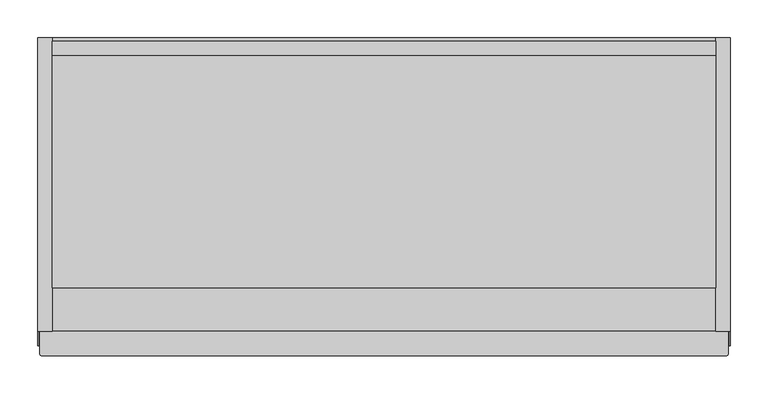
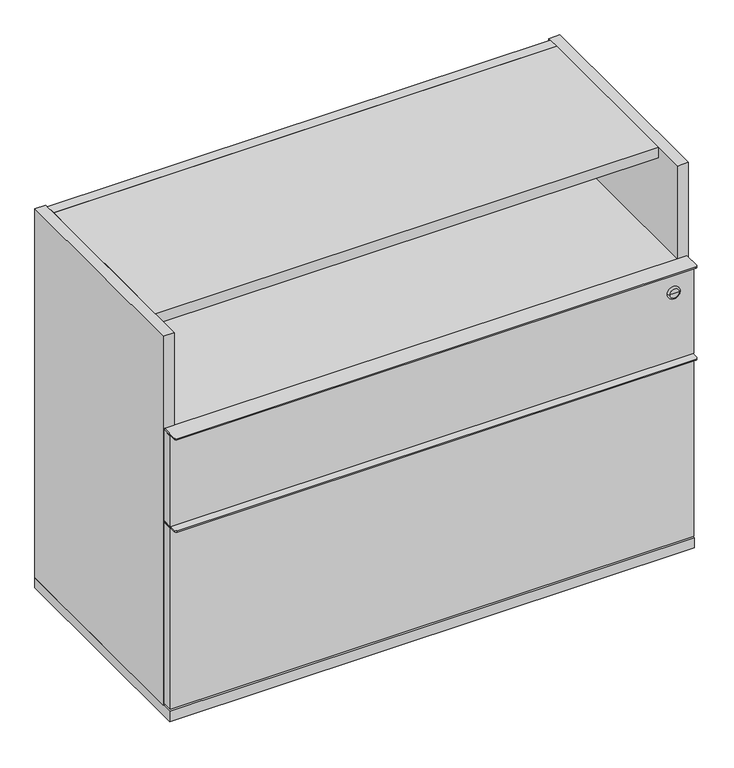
"""IFC4 building model written with IfcOpenShell, lengths in millimetres: furniture geometry, Haworth_BeHold_Modular_AttachedLateral : O/B/F - Inset Back - 36w."""

from ifc_helpers import new_model, si_unit, point, frame, frame_2d, origin, origin_with_axes, place, context, project, spatial, polyline, circle_curve, ellipse_curve, trimmed, segment, composite_curve, outline, extrude, source, transform, mapped, element, save
from ifc_brep_helpers import plane_surface, revolved_surface, advanced_brep


def furniture_4d16a0e5(model_context):
    return source(origin(), model_context, "Body", "SolidModel", [
        extrude(outline(composite_curve([segment(polyline([(-611.6779053, -505.6071814), (-611.6779053, -476.25), (297.9595947, -476.25), (297.9595947, -505.6152625)]), True, "CONTINUOUS"), segment(trimmed(circle_curve(frame_2d((294.7811072, -505.6152625)), 3.1784875), [point((297.9595947, -505.6152625))], [point((294.7811072, -508.79375))], False, "CARTESIAN"), True, "CONTINUOUS"), segment(polyline([(294.7811072, -508.79375), (-608.4913367, -508.79375)]), True, "CONTINUOUS"), segment(trimmed(circle_curve(frame_2d((-608.4913367, -505.6071814)), 3.1865686), [point((-608.4913367, -508.79375))], [point((-611.6779053, -505.6071814))], False, "CARTESIAN"), True, "CONTINUOUS")], self_intersect=False)), frame((0.0, 0.0, 538.1625), z_axis=(0.0, 0.0, 1.0), x_axis=(1.0, 0.0, 0.0)), (0.0, 0.0, 1.0), 2.38125),
        advanced_brep(
        [(255.8892944, -498.4742249, 496.09375), (271.767395, -498.4742249, 496.09375), (263.8283447, -498.4742249, 496.09375), (252.7150695, -495.3, 496.09375), (274.9416198, -495.3, 496.09375), (263.8283447, -495.3, 496.09375)],
        [
            (0, 1, circle_curve(frame((263.8283447, -498.4742249, 496.09375), z_axis=(0.0, -1.0, 0.0), x_axis=(1.0, 0.0, 0.0)), 7.9390503)),
            (1, 2),
            (2, 0),
            (1, 0, circle_curve(frame((263.8283447, -498.4742249, 496.09375), z_axis=(0.0, -1.0, 0.0), x_axis=(1.0, 0.0, 0.0)), 7.9390503)),
            (3, 4, circle_curve(frame((263.8283447, -495.3, 496.09375), z_axis=(0.0, -1.0, 0.0), x_axis=(1.0, 0.0, 0.0)), 11.1132751)),
            (4, 1, circle_curve(frame((271.767395, -495.3, 496.09375), z_axis=(0.0, 0.0, -1.0), x_axis=(-1.0, 0.0, 0.0)), 3.1742249)),
            (0, 3, circle_curve(frame((255.8892944, -495.3, 496.09375), z_axis=(0.0, 0.0, -1.0), x_axis=(1.0, 0.0, 0.0)), 3.1742249)),
            (4, 3, circle_curve(frame((263.8283447, -495.3, 496.09375), z_axis=(0.0, -1.0, 0.0), x_axis=(1.0, 0.0, 0.0)), 11.1132751)),
            (5, 4),
            (3, 5),
        ],
        [
            plane_surface(frame((263.8283447, -498.4742249, 496.09375), z_axis=(0.0, -1.0, 0.0), x_axis=(1.0, 0.0, 0.0))),
            revolved_surface(trimmed(ellipse_curve(frame((271.767395, -495.3, 496.09375), z_axis=(0.0, 0.0, 1.0), x_axis=(-1.0, 0.0, 0.0)), 3.1742249, 3.1742249), [point((271.767395, -498.4742249, 496.09375))], [point((274.9416198, -495.3, 496.09375))], True, "CARTESIAN"), (263.8283447, -481.3109205, 496.09375), (0.0, 1.0, 0.0)),
            plane_surface(frame((263.8283447, -495.3, 496.09375), z_axis=(0.0, 1.0, 0.0), x_axis=(1.0, 0.0, 0.0))),
        ],
        [
            (0, [[1, 2, 3]]),
            (0, [[4, -3, -2]]),
            (1, [[5, 6, -1, 7]]),
            (1, [[8, -7, -4, -6]]),
            (2, [[9, -5, 10]]),
            (2, [[-10, -8, -9]]),
        ],
    ),
        extrude(outline(polyline([(-612.4716553, -476.25), (298.7533447, -476.25), (298.7533447, -495.3), (-612.4716553, -495.3), (-612.4716553, -476.25)])), frame((0.0, 0.0, 371.475), z_axis=(0.0, 0.0, 1.0), x_axis=(1.0, 0.0, 0.0)), (0.0, 0.0, 1.0), 166.6875),
        extrude(outline(composite_curve([segment(polyline([(-611.6779053, -505.6071814), (-611.6779053, -476.25), (297.9595947, -476.25), (297.9595947, -505.6152625)]), True, "CONTINUOUS"), segment(trimmed(circle_curve(frame_2d((294.7811072, -505.6152625)), 3.1784875), [point((297.9595947, -505.6152625))], [point((294.7811072, -508.79375))], False, "CARTESIAN"), True, "CONTINUOUS"), segment(polyline([(294.7811072, -508.79375), (-608.4913367, -508.79375)]), True, "CONTINUOUS"), segment(trimmed(circle_curve(frame_2d((-608.4913367, -505.6071814)), 3.1865686), [point((-608.4913367, -508.79375))], [point((-611.6779053, -505.6071814))], False, "CARTESIAN"), True, "CONTINUOUS")], self_intersect=False)), frame((0.0, 0.0, 368.3), z_axis=(0.0, 0.0, 1.0), x_axis=(1.0, 0.0, 0.0)), (0.0, 0.0, 1.0), 2.38125),
        extrude(outline(polyline([(-612.4716553, -476.25), (298.7533447, -476.25), (298.7533447, -495.3), (-612.4716553, -495.3), (-612.4716553, -476.25)])), frame((0.0, 0.0, 34.925), z_axis=(0.0, 0.0, 1.0), x_axis=(1.0, 0.0, 0.0)), (0.0, 0.0, 1.0), 333.375),
        extrude(outline(polyline([(281.2908447, -107.95), (281.2908447, -476.25), (-595.0091553, -476.25), (-595.0091553, -107.95), (281.2908447, -107.95)])), frame((0.0, 0.0, 520.7), z_axis=(0.0, 0.0, 1.0), x_axis=(1.0, 0.0, 0.0)), (0.0, 0.0, 1.0), 19.05),
        extrude(outline(polyline([(281.2908447, -112.7125), (281.2908447, -419.1), (-595.0091553, -419.1), (-595.0091553, -112.7125), (281.2908447, -112.7125)])), frame((0.0, 0.0, 692.15), z_axis=(0.0, 0.0, 1.0), x_axis=(1.0, 0.0, 0.0)), (0.0, 0.0, 1.0), 19.05),
        extrude(outline(polyline([(281.2908447, -112.7125), (-595.0091553, -112.7125), (-595.0091553, -93.6625), (281.2908447, -93.6625), (281.2908447, -112.7125)])), frame((0.0, 0.0, 31.75), z_axis=(0.0, 0.0, 1.0), x_axis=(1.0, 0.0, 0.0)), (0.0, 0.0, 1.0), 679.45),
        extrude(outline(polyline([(300.3408447, -88.9), (300.3408447, -476.25), (281.2908447, -476.25), (281.2908447, -88.9), (300.3408447, -88.9)])), frame((0.0, 0.0, 31.75), z_axis=(0.0, 0.0, 1.0), x_axis=(1.0, 0.0, 0.0)), (0.0, 0.0, 1.0), 679.45),
        extrude(outline(polyline([(-614.0591553, -476.25), (-614.0591553, -88.9), (-595.0091553, -88.9), (-595.0091553, -476.25), (-614.0591553, -476.25)])), frame((0.0, 0.0, 31.75), z_axis=(0.0, 0.0, 1.0), x_axis=(1.0, 0.0, 0.0)), (0.0, 0.0, 1.0), 679.45),
        extrude(outline(polyline([(300.3408447, -88.9), (300.3408447, -495.3), (-614.0591553, -495.3), (-614.0591553, -88.9), (300.3408447, -88.9)])), frame((0.0, 0.0, 12.7), z_axis=(0.0, 0.0, 1.0), x_axis=(1.0, 0.0, 0.0)), (0.0, 0.0, 1.0), 19.05),
        extrude(outline(composite_curve([segment(polyline([(281.2908447, -114.3), (281.2908447, -158.7999969)]), True, "CONTINUOUS"), segment(trimmed(circle_curve(frame_2d((274.9408447, -158.7999969)), 6.35), [point((281.2908447, -158.7999969))], [point((274.9408447, -165.1499969))], False, "CARTESIAN"), True, "CONTINUOUS"), segment(polyline([(274.9408447, -165.1499969), (263.4907684, -165.1499969), (224.0908477, -125.7500763), (224.0908477, -114.3)]), True, "CONTINUOUS"), segment(trimmed(circle_curve(frame_2d((230.4408477, -114.3)), 6.35), [point((224.0908477, -114.3))], [point((230.4408477, -107.95))], False, "CARTESIAN"), True, "CONTINUOUS"), segment(polyline([(230.4408477, -107.95), (274.9408447, -107.95)]), True, "CONTINUOUS"), segment(trimmed(circle_curve(frame_2d((274.9408447, -114.3)), 6.35), [point((274.9408447, -107.95))], [point((281.2908447, -114.3))], False, "CARTESIAN"), True, "CONTINUOUS")], self_intersect=False)), origin_with_axes(), (0.0, 0.0, 1.0), 12.7),
        extrude(outline(composite_curve([segment(trimmed(circle_curve(frame_2d((274.9408447, -469.9)), 6.35), [point((281.2908447, -469.9))], [point((274.9408447, -476.25))], False, "CARTESIAN"), True, "CONTINUOUS"), segment(polyline([(274.9408447, -476.25), (230.4408477, -476.25)]), True, "CONTINUOUS"), segment(trimmed(circle_curve(frame_2d((230.4408477, -469.9)), 6.35), [point((230.4408477, -476.25))], [point((224.0908477, -469.9))], False, "CARTESIAN"), True, "CONTINUOUS"), segment(polyline([(224.0908477, -469.9), (224.0908477, -458.4499237), (263.4907684, -419.0500031), (274.9408447, -419.0500031)]), True, "CONTINUOUS"), segment(trimmed(circle_curve(frame_2d((274.9408447, -425.4000031)), 6.35), [point((274.9408447, -419.0500031))], [point((281.2908447, -425.4000031))], False, "CARTESIAN"), True, "CONTINUOUS"), segment(polyline([(281.2908447, -425.4000031), (281.2908447, -469.9)]), True, "CONTINUOUS")], self_intersect=False)), origin_with_axes(), (0.0, 0.0, 1.0), 12.7),
        extrude(outline(composite_curve([segment(trimmed(circle_curve(frame_2d((-588.6591553, -114.3)), 6.35), [point((-595.0091553, -114.3))], [point((-588.6591553, -107.95))], False, "CARTESIAN"), True, "CONTINUOUS"), segment(polyline([(-588.6591553, -107.95), (-544.1591584, -107.95)]), True, "CONTINUOUS"), segment(trimmed(circle_curve(frame_2d((-544.1591584, -114.3)), 6.35), [point((-544.1591584, -107.95))], [point((-537.8091584, -114.3))], False, "CARTESIAN"), True, "CONTINUOUS"), segment(polyline([(-537.8091584, -114.3), (-537.8091584, -125.7500763), (-577.209079, -165.1499969), (-588.6591553, -165.1499969)]), True, "CONTINUOUS"), segment(trimmed(circle_curve(frame_2d((-588.6591553, -158.7999969)), 6.35), [point((-588.6591553, -165.1499969))], [point((-595.0091553, -158.7999969))], False, "CARTESIAN"), True, "CONTINUOUS"), segment(polyline([(-595.0091553, -158.7999969), (-595.0091553, -114.3)]), True, "CONTINUOUS")], self_intersect=False)), origin_with_axes(), (0.0, 0.0, 1.0), 12.7),
        extrude(outline(composite_curve([segment(polyline([(-595.0091553, -469.9), (-595.0091553, -425.4000031)]), True, "CONTINUOUS"), segment(trimmed(circle_curve(frame_2d((-588.6591553, -425.4000031)), 6.35), [point((-595.0091553, -425.4000031))], [point((-588.6591553, -419.0500031))], False, "CARTESIAN"), True, "CONTINUOUS"), segment(polyline([(-588.6591553, -419.0500031), (-577.209079, -419.0500031), (-537.8091584, -458.4499237), (-537.8091584, -469.9)]), True, "CONTINUOUS"), segment(trimmed(circle_curve(frame_2d((-544.1591584, -469.9)), 6.35), [point((-537.8091584, -469.9))], [point((-544.1591584, -476.25))], False, "CARTESIAN"), True, "CONTINUOUS"), segment(polyline([(-544.1591584, -476.25), (-588.6591553, -476.25)]), True, "CONTINUOUS"), segment(trimmed(circle_curve(frame_2d((-588.6591553, -469.9)), 6.35), [point((-588.6591553, -476.25))], [point((-595.0091553, -469.9))], False, "CARTESIAN"), True, "CONTINUOUS")], self_intersect=False)), origin_with_axes(), (0.0, 0.0, 1.0), 12.7),
    ])


if __name__ == "__main__":
    model = new_model("IFC4")
    model_context = context("Model", 3, world=origin())
    ifc_project = project(units=[si_unit("LENGTHUNIT", "METRE", prefix="MILLI")], contexts=[model_context])
    site = spatial("IfcSite", under=ifc_project)
    building = spatial("IfcBuilding", under=site)
    placement = place(None, origin())
    furniture_shape = furniture_4d16a0e5(model_context)
    element("IfcFurniture", 1, ObjectType="Haworth_BeHold_Modular_AttachedLateral : O/B/F - Inset Back - 36w", at=placement, inside=building, context=model_context, shape_type="MappedRepresentation", body=[
        mapped(furniture_shape, transform((0.0, 0.0, 0.0), x_axis=(1.0, 0.0, 0.0), y_axis=(0.0, 1.0, 0.0), z_axis=(0.0, 0.0, 1.0))),
    ])
    save(model, "model.ifc")
